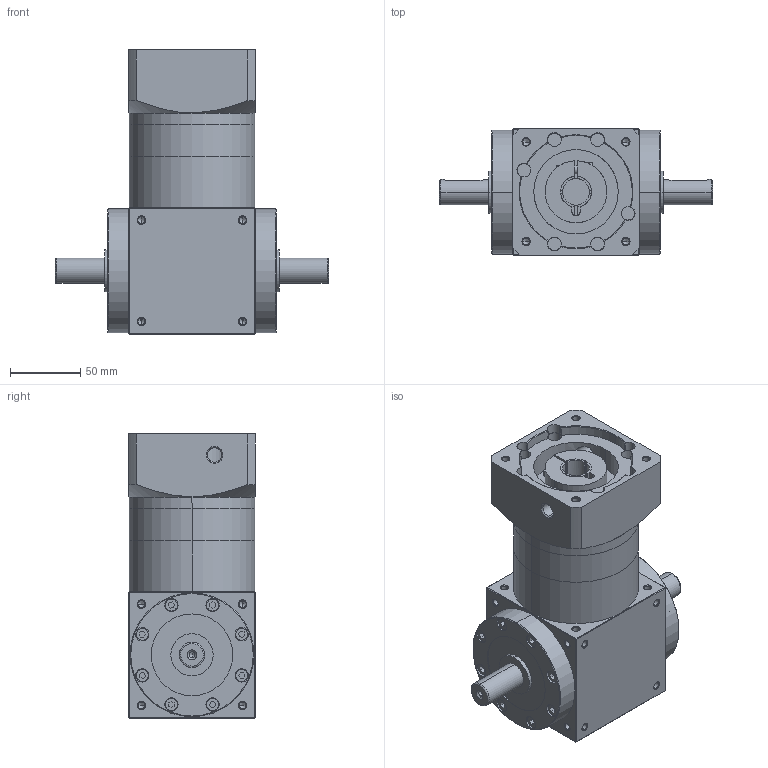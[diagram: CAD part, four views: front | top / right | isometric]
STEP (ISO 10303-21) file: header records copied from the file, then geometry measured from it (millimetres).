
FILE_DESCRIPTION (( 'STEP AP203' ), '1' );
FILE_NAME ('AT090-FL-L2-19-80-100M6.STEP', '2025-12-05T01:56:42', ( 'Windows User' ), ( 'P R C' ), 'SwSTEP 2.0', 'SolidWorks 2016', '' );
FILE_SCHEMA (( 'CONFIG_CONTROL_DESIGN' ));
Length unit declared in the file: millimetre
Products named in the file (6): AT90-转角箱体-双轴-输出; AT90蛌倰怀堤楊擘; AT90单级齿圈; 输入胀套-22; AT90-输入法兰-C-80-M6-100; AT090-FL-L2-19-80-100M6
Assembly tree (5 placements, depth 2):
  AT090-FL-L2-19-80-100M6
    AT90-转角箱体-双轴-输出
    AT90蛌倰怀堤楊擘
    AT90单级齿圈
    输入胀套-22
    AT90-输入法兰-C-80-M6-100
Bounding box: 194 x 90 x 202 mm (x, y, z)
Volume: 1213952.4 mm3; surface area: 202379.7 mm2
Topology: 5 solids, 17 shells, 1441 faces, 3640 edges, 2288 vertices
Faces by surface type: plane 697, cylinder 321, cone 239, bspline 184
Entity records: 51596 total; most frequent: CARTESIAN_POINT 18094, ORIENTED_EDGE 7088, DIRECTION 6186, EDGE_CURVE 3544, VERTEX_POINT 2288, VECTOR 2258, LINE 2258, AXIS2_PLACEMENT_3D 1964
